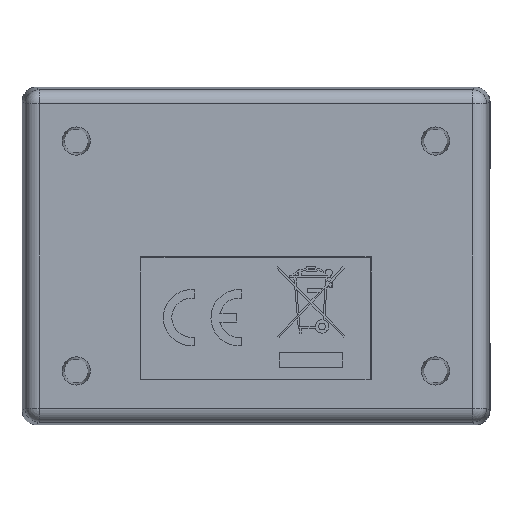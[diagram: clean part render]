
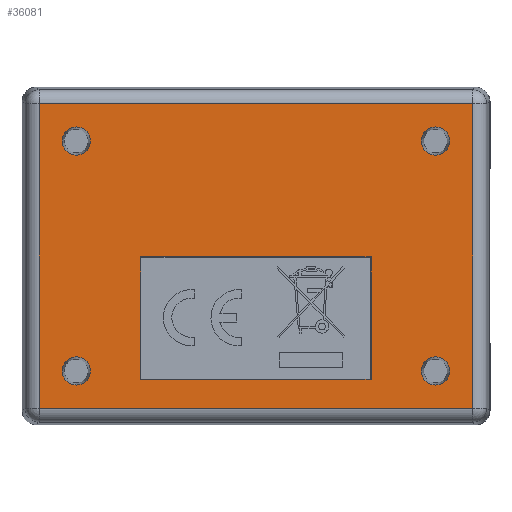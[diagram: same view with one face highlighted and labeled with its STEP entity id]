
A CAD part, front view. The second image highlights one B-rep face of the part: STEP entity #36081.
In plain terms, the highlighted planar face has unit normal (0, -1, 0) as drawn and (0, 0, -1) by its records, which use the part's own axes.
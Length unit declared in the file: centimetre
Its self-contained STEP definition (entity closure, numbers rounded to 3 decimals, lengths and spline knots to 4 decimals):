
#12673=CIRCLE('',#37461,0.1249);
#12674=CIRCLE('',#37462,0.1249);
#12675=CIRCLE('',#37463,0.1249);
#12676=CIRCLE('',#37464,0.1249);
#13997=VERTEX_POINT('',#46098);
#13998=VERTEX_POINT('',#46100);
#14000=VERTEX_POINT('',#46106);
#14002=VERTEX_POINT('',#46112);
#14123=VERTEX_POINT('',#47184);
#14124=VERTEX_POINT('',#47186);
#14125=VERTEX_POINT('',#47188);
#14126=VERTEX_POINT('',#47190);
#14127=VERTEX_POINT('',#47192);
#14128=VERTEX_POINT('',#47193);
#14129=VERTEX_POINT('',#47195);
#14130=VERTEX_POINT('',#47197);
#16545=VECTOR('',#39879,1.);
#16548=VECTOR('',#39883,1.);
#16551=VECTOR('',#39887,1.);
#16554=VECTOR('',#39891,1.);
#16715=VECTOR('',#40124,1.);
#16716=VECTOR('',#40125,1.);
#16717=VECTOR('',#40126,1.);
#16718=VECTOR('',#40127,1.);
#19388=LINE('',#46099,#16545);
#19391=LINE('',#46105,#16548);
#19394=LINE('',#46111,#16551);
#19397=LINE('',#46116,#16554);
#19558=LINE('',#47191,#16715);
#19559=LINE('',#47194,#16716);
#19560=LINE('',#47196,#16717);
#19561=LINE('',#47198,#16718);
#22320=EDGE_CURVE('',#13998,#13997,#19388,.F.);
#22323=EDGE_CURVE('',#14000,#13998,#19391,.F.);
#22326=EDGE_CURVE('',#14002,#14000,#19394,.F.);
#22329=EDGE_CURVE('',#13997,#14002,#19397,.F.);
#22510=EDGE_CURVE('',#14123,#14123,#12673,.F.);
#22511=EDGE_CURVE('',#14124,#14124,#12674,.F.);
#22512=EDGE_CURVE('',#14125,#14125,#12675,.F.);
#22513=EDGE_CURVE('',#14126,#14126,#12676,.F.);
#22514=EDGE_CURVE('',#14127,#14128,#19558,.T.);
#22515=EDGE_CURVE('',#14129,#14127,#19559,.T.);
#22516=EDGE_CURVE('',#14130,#14129,#19560,.T.);
#22517=EDGE_CURVE('',#14128,#14130,#19561,.T.);
#26990=ORIENTED_EDGE('',*,*,#22510,.T.);
#26991=ORIENTED_EDGE('',*,*,#22511,.T.);
#26992=ORIENTED_EDGE('',*,*,#22512,.T.);
#26993=ORIENTED_EDGE('',*,*,#22513,.T.);
#26994=ORIENTED_EDGE('',*,*,#22514,.F.);
#26995=ORIENTED_EDGE('',*,*,#22515,.F.);
#26996=ORIENTED_EDGE('',*,*,#22516,.F.);
#26997=ORIENTED_EDGE('',*,*,#22517,.F.);
#26998=ORIENTED_EDGE('',*,*,#22320,.T.);
#26999=ORIENTED_EDGE('',*,*,#22329,.T.);
#27000=ORIENTED_EDGE('',*,*,#22326,.T.);
#27001=ORIENTED_EDGE('',*,*,#22323,.T.);
#33093=EDGE_LOOP('',(#26990));
#33094=EDGE_LOOP('',(#26991));
#33095=EDGE_LOOP('',(#26992));
#33096=EDGE_LOOP('',(#26993));
#33097=EDGE_LOOP('',(#26994,#26995,#26996,#26997));
#33098=EDGE_LOOP('',(#26998,#26999,#27000,#27001));
#34598=FACE_BOUND('',#33093,.T.);
#34599=FACE_BOUND('',#33094,.T.);
#34600=FACE_BOUND('',#33095,.T.);
#34601=FACE_BOUND('',#33096,.T.);
#34602=FACE_BOUND('',#33097,.T.);
#34603=FACE_BOUND('',#33098,.T.);
#36081=ADVANCED_FACE('',(#34598,#34599,#34600,#34601,#34602,#34603),#56352,
 .F.);
#37460=AXIS2_PLACEMENT_3D('',#47182,#40115,$);
#37461=AXIS2_PLACEMENT_3D('',#47183,#40116,#40117);
#37462=AXIS2_PLACEMENT_3D('',#47185,#40118,#40119);
#37463=AXIS2_PLACEMENT_3D('',#47187,#40120,#40121);
#37464=AXIS2_PLACEMENT_3D('',#47189,#40122,#40123);
#39879=DIRECTION('',(-1.,0.,0.));
#39883=DIRECTION('',(0.,1.,0.));
#39887=DIRECTION('',(1.,0.,0.));
#39891=DIRECTION('',(0.,-1.,0.));
#40115=DIRECTION('',(0.,0.,1.));
#40116=DIRECTION('',(0.,0.,-1.));
#40117=DIRECTION('',(-0.125,0.,0.));
#40118=DIRECTION('',(0.,0.,-1.));
#40119=DIRECTION('',(-0.125,0.,0.));
#40120=DIRECTION('',(0.,0.,-1.));
#40121=DIRECTION('',(-0.125,0.,0.));
#40122=DIRECTION('',(0.,0.,-1.));
#40123=DIRECTION('',(-0.125,0.,0.));
#40124=DIRECTION('',(-1.,0.,0.));
#40125=DIRECTION('',(0.,1.,0.));
#40126=DIRECTION('',(1.,0.,0.));
#40127=DIRECTION('',(0.,-1.,0.));
#46098=CARTESIAN_POINT('',(1.091,-1.0176,-0.0032));
#46099=CARTESIAN_POINT('',(0.1374,-1.0176,-0.0032));
#46100=CARTESIAN_POINT('',(0.0083,-1.0176,-0.0032));
#46105=CARTESIAN_POINT('',(0.0083,0.,-0.0032));
#46106=CARTESIAN_POINT('',(0.0083,1.0176,-0.0032));
#46111=CARTESIAN_POINT('',(0.1374,1.0176,-0.0032));
#46112=CARTESIAN_POINT('',(1.091,1.0176,-0.0032));
#46116=CARTESIAN_POINT('',(1.091,0.,-0.0032));
#47182=CARTESIAN_POINT('',(0.,0.,-0.0032));
#47183=CARTESIAN_POINT('',(1.016,1.5875,-0.0032));
#47184=CARTESIAN_POINT('',(1.1409,1.5875,-0.0032));
#47185=CARTESIAN_POINT('',(1.016,-1.5875,-0.0032));
#47186=CARTESIAN_POINT('',(1.1409,-1.5875,-0.0032));
#47187=CARTESIAN_POINT('',(-1.016,-1.5875,-0.0032));
#47188=CARTESIAN_POINT('',(-0.8911,-1.5875,-0.0032));
#47189=CARTESIAN_POINT('',(-1.016,1.5875,-0.0032));
#47190=CARTESIAN_POINT('',(-0.8911,1.5875,-0.0032));
#47191=CARTESIAN_POINT('',(0.,1.9149,-0.0032));
#47192=CARTESIAN_POINT('',(1.3434,1.9149,-0.0032));
#47193=CARTESIAN_POINT('',(-1.3434,1.9149,-0.0032));
#47194=CARTESIAN_POINT('',(1.3434,0.,-0.0032));
#47195=CARTESIAN_POINT('',(1.3434,-1.9149,-0.0032));
#47196=CARTESIAN_POINT('',(0.,-1.9149,-0.0032));
#47197=CARTESIAN_POINT('',(-1.3434,-1.9149,-0.0032));
#47198=CARTESIAN_POINT('',(-1.3434,0.,-0.0032));
#56352=PLANE('',#37460);
